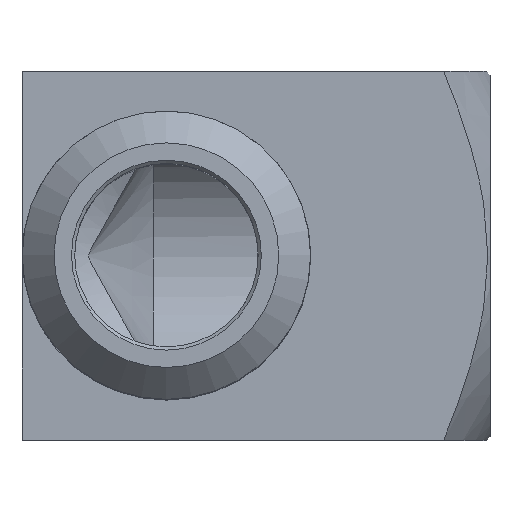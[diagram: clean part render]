
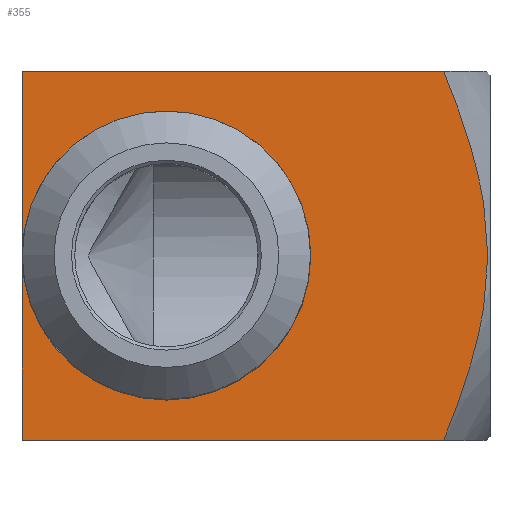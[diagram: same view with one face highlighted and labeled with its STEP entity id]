
A CAD part, top view. The second image highlights one B-rep face of the part: STEP entity #355.
In plain terms, the highlighted planar face has unit normal (0, 0, 1).
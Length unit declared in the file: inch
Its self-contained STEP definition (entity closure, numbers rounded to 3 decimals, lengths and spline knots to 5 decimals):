
#16=(
BOUNDED_CURVE()
B_SPLINE_CURVE(2,(#680,#681,#682),.UNSPECIFIED.,.F.,.F.)
B_SPLINE_CURVE_WITH_KNOTS((3,3),(0.,0.90101),.UNSPECIFIED.)
CURVE()
GEOMETRIC_REPRESENTATION_ITEM()
RATIONAL_B_SPLINE_CURVE((1.,1.207,1.207))
REPRESENTATION_ITEM('')
);
#17=(
BOUNDED_CURVE()
B_SPLINE_CURVE(2,(#684,#685,#686),.UNSPECIFIED.,.F.,.F.)
B_SPLINE_CURVE_WITH_KNOTS((3,3),(0.90101,1.80202),
 .UNSPECIFIED.)
CURVE()
GEOMETRIC_REPRESENTATION_ITEM()
RATIONAL_B_SPLINE_CURVE((1.207,1.207,1.))
REPRESENTATION_ITEM('')
);
#34=PLANE('',#412);
#60=FACE_OUTER_BOUND('',#85,.T.);
#85=EDGE_LOOP('',(#308,#309,#310,#311,#312,#313,#314));
#97=LINE('',#648,#116);
#98=LINE('',#650,#117);
#101=LINE('',#659,#120);
#105=LINE('',#683,#124);
#116=VECTOR('',#482,0.3937);
#117=VECTOR('',#483,0.3937);
#120=VECTOR('',#488,0.3937);
#124=VECTOR('',#514,0.3937);
#148=CIRCLE('',#410,0.27);
#170=VERTEX_POINT('',#645);
#171=VERTEX_POINT('',#647);
#172=VERTEX_POINT('',#649);
#174=VERTEX_POINT('',#655);
#179=VERTEX_POINT('',#678);
#180=VERTEX_POINT('',#679);
#211=EDGE_CURVE('',#170,#171,#97,.T.);
#212=EDGE_CURVE('',#171,#172,#98,.T.);
#216=EDGE_CURVE('',#174,#170,#101,.T.);
#224=EDGE_CURVE('',#171,#171,#148,.T.);
#225=EDGE_CURVE('',#179,#180,#16,.T.);
#226=EDGE_CURVE('',#179,#172,#105,.T.);
#227=EDGE_CURVE('',#180,#174,#17,.T.);
#308=ORIENTED_EDGE('',*,*,#225,.F.);
#309=ORIENTED_EDGE('',*,*,#226,.T.);
#310=ORIENTED_EDGE('',*,*,#212,.F.);
#311=ORIENTED_EDGE('',*,*,#224,.T.);
#312=ORIENTED_EDGE('',*,*,#211,.F.);
#313=ORIENTED_EDGE('',*,*,#216,.F.);
#314=ORIENTED_EDGE('',*,*,#227,.F.);
#355=ADVANCED_FACE('',(#60),#34,.F.);
#410=AXIS2_PLACEMENT_3D('',#675,#508,#509);
#412=AXIS2_PLACEMENT_3D('',#677,#512,#513);
#482=DIRECTION('',(0.,1.,0.));
#483=DIRECTION('',(0.,1.,0.));
#488=DIRECTION('',(-1.,0.,0.));
#508=DIRECTION('center_axis',(0.,0.,-1.));
#509=DIRECTION('ref_axis',(1.,0.,0.));
#512=DIRECTION('center_axis',(0.,0.,-1.));
#513=DIRECTION('ref_axis',(0.,-1.,0.));
#514=DIRECTION('',(-1.,0.,0.));
#645=CARTESIAN_POINT('',(-0.27,-0.345,0.345));
#647=CARTESIAN_POINT('',(-0.27,0.,0.345));
#648=CARTESIAN_POINT('',(-0.27,0.1725,0.345));
#649=CARTESIAN_POINT('',(-0.27,0.345,0.345));
#650=CARTESIAN_POINT('',(-0.27,0.1725,0.345));
#655=CARTESIAN_POINT('',(0.5184,-0.345,0.345));
#659=CARTESIAN_POINT('',(0.,-0.345,0.345));
#675=CARTESIAN_POINT('Origin',(0.,0.,0.345));
#677=CARTESIAN_POINT('Origin',(0.605,0.345,0.345));
#678=CARTESIAN_POINT('',(0.5184,0.345,0.345));
#679=CARTESIAN_POINT('',(0.6009,0.,0.345));
#680=CARTESIAN_POINT('Ctrl Pts',(0.5184,0.345,0.345));
#681=CARTESIAN_POINT('Ctrl Pts',(0.6009,0.1429,0.345));
#682=CARTESIAN_POINT('Ctrl Pts',(0.6009,0.,
0.345));
#683=CARTESIAN_POINT('',(0.,0.345,0.345));
#684=CARTESIAN_POINT('Ctrl Pts',(0.6009,0.,
0.345));
#685=CARTESIAN_POINT('Ctrl Pts',(0.6009,-0.1429,0.345));
#686=CARTESIAN_POINT('Ctrl Pts',(0.5184,-0.345,0.345));
